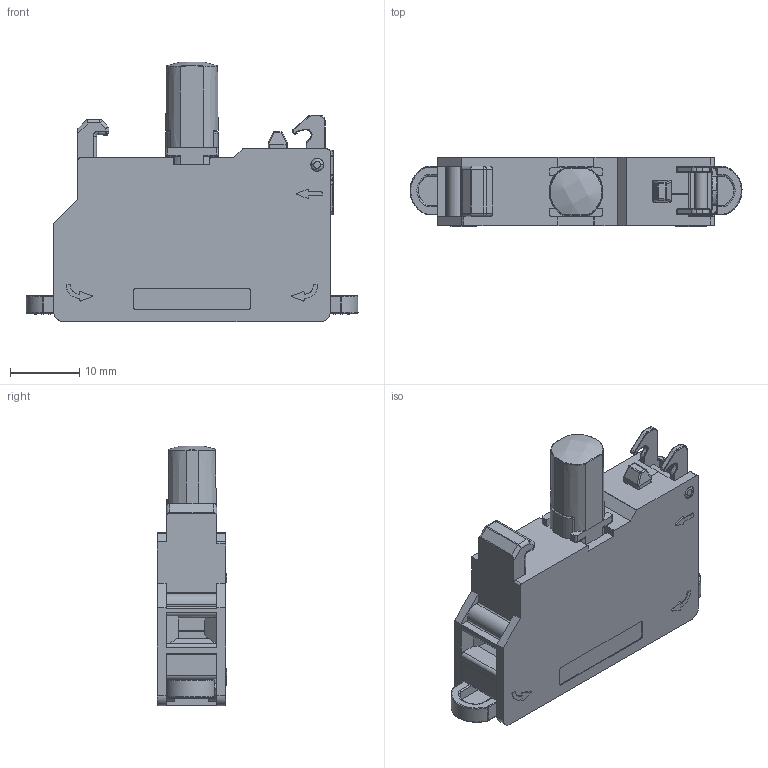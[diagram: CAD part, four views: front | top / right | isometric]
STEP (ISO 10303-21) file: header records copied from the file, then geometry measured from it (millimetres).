
FILE_DESCRIPTION (( 'STEP AP203' ), '1' );
FILE_NAME ('LB22SA1-D.STEP', '2025-03-14T01:44:39', ( '微软用户' ), ( '微软中国' ), 'SwSTEP 2.0', 'SolidWorks 2022', '' );
FILE_SCHEMA (( 'CONFIG_CONTROL_DESIGN' ));
Products named in the file (1): LB22SA1-D
Bounding box: 48 x 10.05 x 37.52 mm (x, y, z)
Volume: 5672.2 mm3; surface area: 9235.4 mm2
Topology: 2 solids, 2 shells, 1702 faces, 4611 edges, 2931 vertices
Faces by surface type: plane 822, cylinder 475, bspline 386, cone 19
Entity records: 68746 total; most frequent: CARTESIAN_POINT 36850, ORIENTED_EDGE 9208, EDGE_CURVE 4604, B_SPLINE_CURVE_WITH_KNOTS 4369, VERTEX_POINT 2931, DIRECTION 2646, EDGE_LOOP 1773, FACE_OUTER_BOUND 1702
